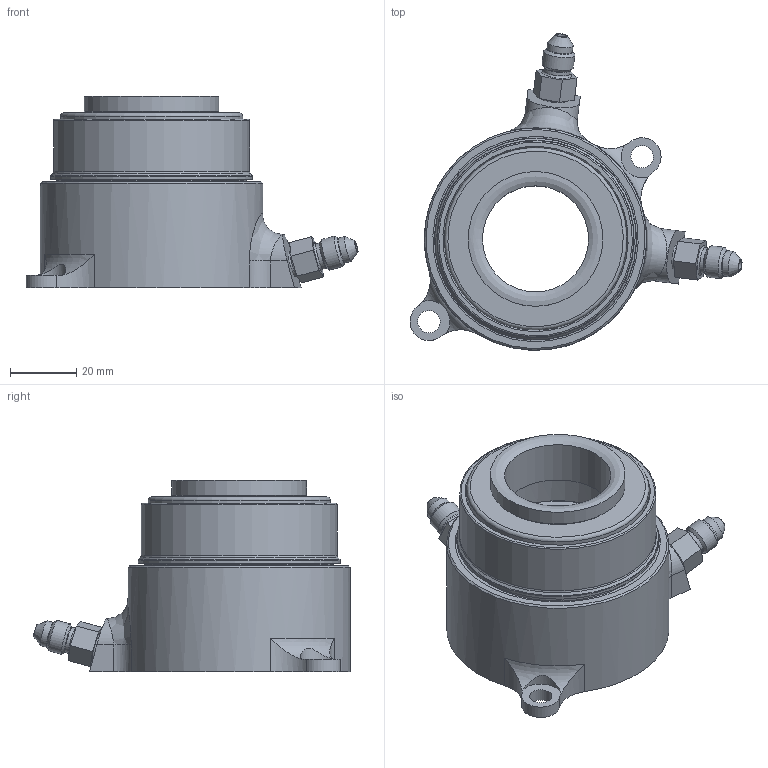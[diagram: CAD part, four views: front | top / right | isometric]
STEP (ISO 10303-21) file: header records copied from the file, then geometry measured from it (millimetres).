
FILE_DESCRIPTION( ( 'Unknown' ), '1' );
FILE_NAME( 'M:/ENG2/CAD/DRAWINGS/Solid Models For Customers (Simplified)/HYDRAULIC RELEASE BEARINGS/60-8340/TILTON 60-8340, SIMPLE.stp', 'Unknown', ( 'Unknown' ), ( 'Unknown' ), 'PSStep 17.0.49', 'Unknown', ' ' );
FILE_SCHEMA( ( 'AUTOMOTIVE_DESIGN { 1 0 10303 214 1 1 1 1 }' ) );
Length unit declared in the file: inch
Products named in the file (2): 1; 2
Bounding box: 100.12 x 95.47 x 57.81 mm (x, y, z)
Volume: 113610.7 mm3; surface area: 33680 mm2
Topology: 2 solids, 3 shells, 193 faces, 496 edges, 330 vertices
Faces by surface type: plane 89, cylinder 46, torus 23, bspline 19, cone 16
Full cylindrical faces by diameter (mm): 3.175 x2, 6.756 x2, 7.734 x2, 7.925 x4, 9.525 x2, 32.004 x1, 35.001 x2, 38.1 x1, 40.64 x1, 47.714 x1, 54.991 x1, 54.997 x1, 57.061 x1, 59.182 x1, 60.96 x1, 61.925 x1, 67.056 x1
Entity records: 9447 total; most frequent: CARTESIAN_POINT 2281, DIRECTION 846, ORIENTED_EDGE 780, PRESENTATION_STYLE_ASSIGNMENT 504, COLOUR_RGB 504, EDGE_CURVE 390, STYLED_ITEM 377, AXIS2_PLACEMENT_3D 333
